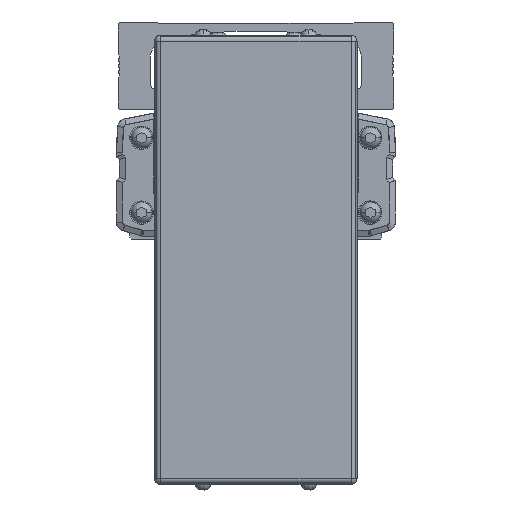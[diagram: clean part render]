
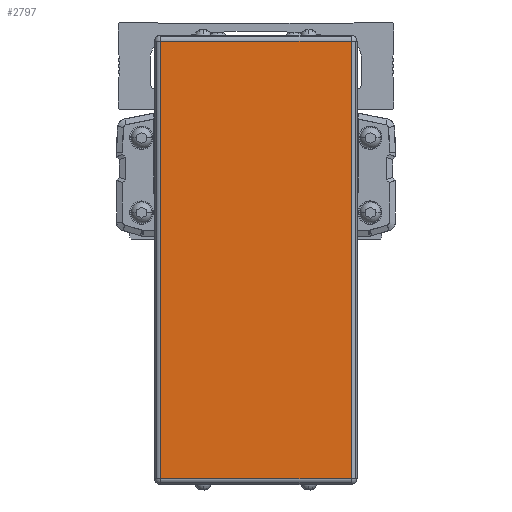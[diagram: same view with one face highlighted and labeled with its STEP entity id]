
A CAD part, front view. The second image highlights one B-rep face of the part: STEP entity #2797.
In plain terms, the highlighted planar face has unit normal (0, -1, 0).
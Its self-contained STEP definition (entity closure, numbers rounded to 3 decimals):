
#2797=ADVANCED_FACE('',(#6998),#6999,.T.);
#6998=FACE_OUTER_BOUND('',#13081,.T.);
#6999=PLANE('',#13082);
#13081=EDGE_LOOP('',(#22099,#22100,#22101,#22102));
#13082=AXIS2_PLACEMENT_3D('',#22103,#22104,#22105);
#22099=ORIENTED_EDGE('',*,*,#38154,.F.);
#22100=ORIENTED_EDGE('',*,*,#38155,.F.);
#22101=ORIENTED_EDGE('',*,*,#38156,.F.);
#22102=ORIENTED_EDGE('',*,*,#38157,.F.);
#22103=CARTESIAN_POINT('',(0.,85.222,-50.1));
#22104=DIRECTION('',(0.0,-1.0,0.));
#22105=DIRECTION('',(1.0,0.0,0.0));
#38154=EDGE_CURVE('',#46242,#46243,#46244,.T.);
#38155=EDGE_CURVE('',#46245,#46242,#46246,.T.);
#38156=EDGE_CURVE('',#46247,#46245,#46248,.T.);
#38157=EDGE_CURVE('',#46243,#46247,#46249,.T.);
#46242=VERTEX_POINT('',#57706);
#46243=VERTEX_POINT('',#57707);
#46244=LINE('',#57708,#57709);
#46245=VERTEX_POINT('',#57710);
#46246=LINE('',#57711,#57712);
#46247=VERTEX_POINT('',#57713);
#46248=LINE('',#57714,#57715);
#46249=LINE('',#57716,#57717);
#57706=CARTESIAN_POINT('',(32.5,85.222,24.5));
#57707=CARTESIAN_POINT('',(32.5,85.222,-124.7));
#57708=CARTESIAN_POINT('',(32.5,85.222,-50.1));
#57709=VECTOR('',#70231,10.0);
#57710=CARTESIAN_POINT('',(-32.5,85.222,24.5));
#57711=CARTESIAN_POINT('',(0.,85.222,24.5));
#57712=VECTOR('',#70232,10.0);
#57713=CARTESIAN_POINT('',(-32.5,85.222,-124.7));
#57714=CARTESIAN_POINT('',(-32.5,85.222,-50.1));
#57715=VECTOR('',#70233,10.0);
#57716=CARTESIAN_POINT('',(0.,85.222,-124.7));
#57717=VECTOR('',#70234,10.0);
#70231=DIRECTION('',(0.0,0.,-1.0));
#70232=DIRECTION('',(1.0,0.0,0.0));
#70233=DIRECTION('',(0.0,0.,1.0));
#70234=DIRECTION('',(-1.0,0.0,0.0));
